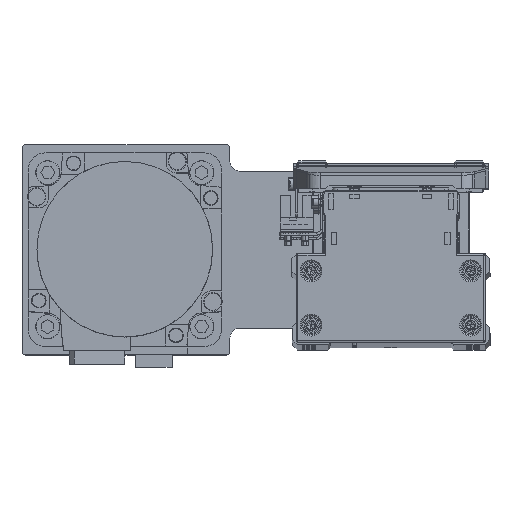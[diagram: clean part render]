
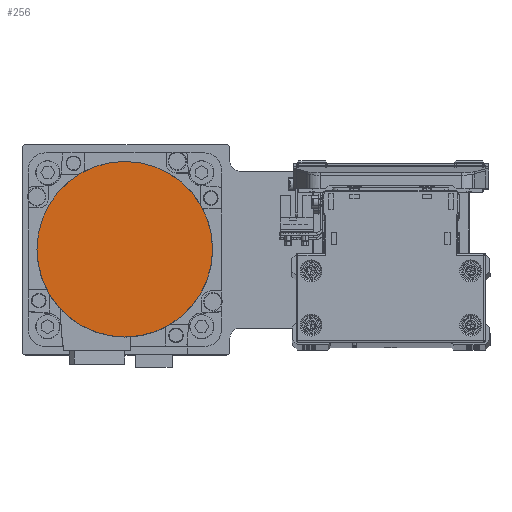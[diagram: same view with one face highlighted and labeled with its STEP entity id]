
A CAD part, top view. The second image highlights one B-rep face of the part: STEP entity #256.
In plain terms, the highlighted planar face has unit normal (0, 0, 1) as drawn and (0, 0, -1) by its records, which use the part's own axes.
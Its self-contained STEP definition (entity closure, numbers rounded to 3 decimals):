
#256 = ADVANCED_FACE ( 'NONE', ( #35986 ), #8018, .F. ) ;
#851 = AXIS2_PLACEMENT_3D ( 'NONE', #8318, #20794, #33223 ) ;
#1711 = CARTESIAN_POINT ( 'NONE',  ( 0., -36.3, -122.2 ) ) ;
#3989 = DIRECTION ( 'NONE',  ( 0., 1., 0. ) ) ;
#4945 = DIRECTION ( 'NONE',  ( 1., 0., 0. ) ) ;
#8018 = PLANE ( 'NONE',  #18371 ) ;
#8318 = CARTESIAN_POINT ( 'NONE',  ( 0., 0., -122.2 ) ) ;
#10782 = ORIENTED_EDGE ( 'NONE', *, *, #18559, .F. ) ;
#11640 = AXIS2_PLACEMENT_3D ( 'NONE', #19530, #31972, #3989 ) ;
#15094 = VERTEX_POINT ( 'NONE', #1711 ) ;
#17083 = ORIENTED_EDGE ( 'NONE', *, *, #33251, .F. ) ;
#18371 = AXIS2_PLACEMENT_3D ( 'NONE', #20485, #32924, #4945 ) ;
#18559 = EDGE_CURVE ( 'NONE', #15094, #31507, #36076, .T. ) ;
#19530 = CARTESIAN_POINT ( 'NONE',  ( 0., 0., -122.2 ) ) ;
#20485 = CARTESIAN_POINT ( 'NONE',  ( 0., 0., -122.2 ) ) ;
#20794 = DIRECTION ( 'NONE',  ( 0., 0., 1. ) ) ;
#22633 = CARTESIAN_POINT ( 'NONE',  ( 0., 36.3, -122.2 ) ) ;
#24888 = EDGE_LOOP ( 'NONE', ( #17083, #10782 ) ) ;
#29231 = CIRCLE ( 'NONE', #11640, 36.3 ) ;
#31507 = VERTEX_POINT ( 'NONE', #22633 ) ;
#31972 = DIRECTION ( 'NONE',  ( 0., 0., 1. ) ) ;
#32924 = DIRECTION ( 'NONE',  ( 0., 0., 1. ) ) ;
#33223 = DIRECTION ( 'NONE',  ( 0., -1., 0. ) ) ;
#33251 = EDGE_CURVE ( 'NONE', #31507, #15094, #29231, .T. ) ;
#35986 = FACE_OUTER_BOUND ( 'NONE', #24888, .T. ) ;
#36076 = CIRCLE ( 'NONE', #851, 36.3 ) ;
